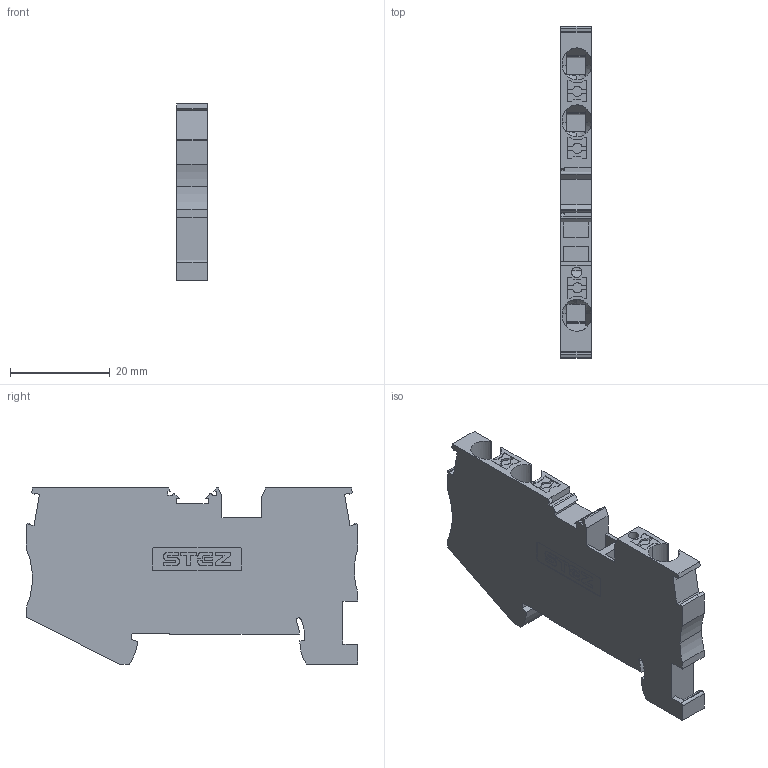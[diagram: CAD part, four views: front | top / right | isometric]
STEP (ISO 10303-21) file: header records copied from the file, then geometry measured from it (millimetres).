
FILE_DESCRIPTION(('TFLEX Exchange Step'),'2;1');
FILE_NAME('14000091_КНБ_4-3-С.stp', '2025-06-24T10:57:09+03:00',('MVarava'),('Unknown organisation'),'TFLEX Exchange 2023.0','T-FLEX CAD','Unknown authorisation');
FILE_SCHEMA( ('AUTOMOTIVE_DESIGN { 1 0 10303 214 1 1 1 1 }') );
Length unit declared in the file: millimetre
Products named in the file (1): Nodes
Bounding box: 6.15 x 66.4 x 35.25 mm (x, y, z)
Volume: 10210.8 mm3; surface area: 6580.2 mm2
Topology: 1 solids, 1 shells, 451 faces, 1316 edges, 878 vertices
Faces by surface type: plane 242, cylinder 203, cone 6
Full cylindrical faces by diameter (mm): 2.1 x1
Entity records: 16039 total; most frequent: CARTESIAN_POINT 3960, ORIENTED_EDGE 2632, DIRECTION 2440, EDGE_CURVE 1316, VERTEX_POINT 878, AXIS2_PLACEMENT_3D 837, VECTOR 766, LINE 766
